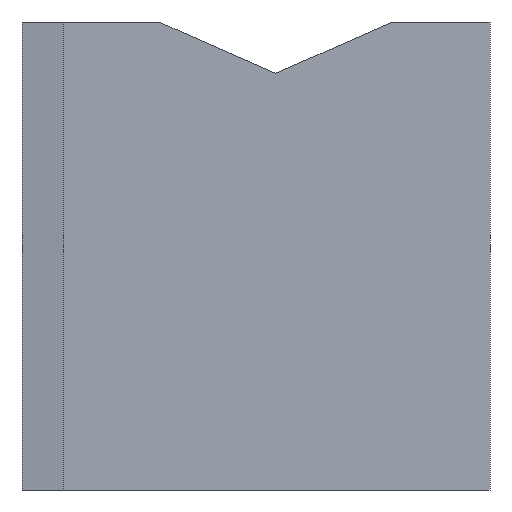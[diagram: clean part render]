
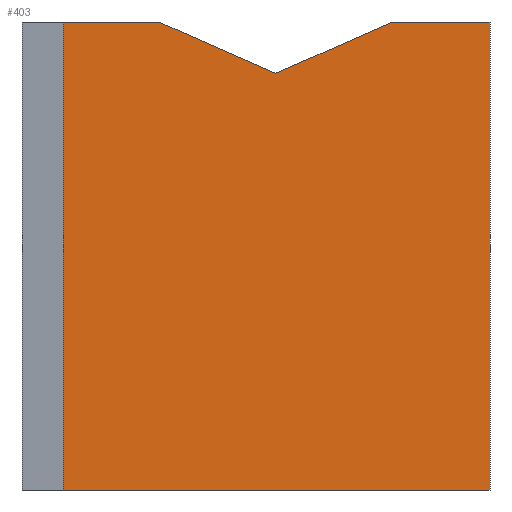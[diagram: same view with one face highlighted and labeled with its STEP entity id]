
A CAD part, front view. The second image highlights one B-rep face of the part: STEP entity #403.
In plain terms, the highlighted planar face has unit normal (0, -1, 0).
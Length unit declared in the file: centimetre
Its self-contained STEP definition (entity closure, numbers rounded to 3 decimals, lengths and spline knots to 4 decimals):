
#1 = VECTOR ( 'NONE', #371, 100. ) ;
#23 = VERTEX_POINT ( 'NONE', #562 ) ;
#34 = EDGE_CURVE ( 'NONE', #23, #563, #168, .T. ) ;
#38 = DIRECTION ( 'NONE',  ( 1., 0., 0. ) ) ;
#49 = CARTESIAN_POINT ( 'NONE',  ( 88.2409, 0., 1000. ) ) ;
#50 = EDGE_CURVE ( 'NONE', #563, #549, #198, .T. ) ;
#56 = ORIENTED_EDGE ( 'NONE', *, *, #373, .F. ) ;
#94 = ORIENTED_EDGE ( 'NONE', *, *, #383, .T. ) ;
#95 = VECTOR ( 'NONE', #38, 100. ) ;
#103 = LINE ( 'NONE', #458, #109 ) ;
#109 = VECTOR ( 'NONE', #301, 100. ) ;
#144 = CARTESIAN_POINT ( 'NONE',  ( 1000., 0., 1000. ) ) ;
#145 = DIRECTION ( 'NONE',  ( 0., 0., 1. ) ) ;
#152 = LINE ( 'NONE', #144, #375 ) ;
#158 = ORIENTED_EDGE ( 'NONE', *, *, #185, .F. ) ;
#168 = LINE ( 'NONE', #253, #285 ) ;
#179 = DIRECTION ( 'NONE',  ( 0., 0., -1. ) ) ;
#185 = EDGE_CURVE ( 'NONE', #287, #203, #152, .T. ) ;
#195 = VERTEX_POINT ( 'NONE', #49 ) ;
#198 = LINE ( 'NONE', #362, #487 ) ;
#203 = VERTEX_POINT ( 'NONE', #543 ) ;
#235 = EDGE_CURVE ( 'NONE', #23, #287, #293, .T. ) ;
#252 = CARTESIAN_POINT ( 'NONE',  ( 292.5188, 0., 1000. ) ) ;
#253 = CARTESIAN_POINT ( 'NONE',  ( 542.0898, 0., 890.1745 ) ) ;
#257 = DIRECTION ( 'NONE',  ( 0., 0., 1. ) ) ;
#280 = EDGE_CURVE ( 'NONE', #195, #549, #529, .T. ) ;
#285 = VECTOR ( 'NONE', #413, 100. ) ;
#286 = VECTOR ( 'NONE', #145, 100. ) ;
#287 = VERTEX_POINT ( 'NONE', #421 ) ;
#293 = LINE ( 'NONE', #484, #95 ) ;
#298 = ORIENTED_EDGE ( 'NONE', *, *, #235, .F. ) ;
#301 = DIRECTION ( 'NONE',  ( 1., 0., 0. ) ) ;
#305 = ORIENTED_EDGE ( 'NONE', *, *, #34, .T. ) ;
#308 = CARTESIAN_POINT ( 'NONE',  ( 0., 0., 1000. ) ) ;
#342 = AXIS2_PLACEMENT_3D ( 'NONE', #308, #547, #257 ) ;
#362 = CARTESIAN_POINT ( 'NONE',  ( 292.5188, 0., 1000. ) ) ;
#371 = DIRECTION ( 'NONE',  ( 1., 0., 0. ) ) ;
#373 = EDGE_CURVE ( 'NONE', #397, #195, #629, .T. ) ;
#375 = VECTOR ( 'NONE', #179, 100. ) ;
#383 = EDGE_CURVE ( 'NONE', #397, #203, #103, .T. ) ;
#397 = VERTEX_POINT ( 'NONE', #449 ) ;
#403 = ADVANCED_FACE ( 'NONE', ( #589 ), #597, .F. ) ;
#413 = DIRECTION ( 'NONE',  ( -0.915, 0., -0.403 ) ) ;
#421 = CARTESIAN_POINT ( 'NONE',  ( 1000., 0., 1000. ) ) ;
#422 = CARTESIAN_POINT ( 'NONE',  ( 542.0898, 0., 890.1745 ) ) ;
#449 = CARTESIAN_POINT ( 'NONE',  ( 88.2409, 0., 0. ) ) ;
#458 = CARTESIAN_POINT ( 'NONE',  ( 0., 0., 0. ) ) ;
#460 = ORIENTED_EDGE ( 'NONE', *, *, #50, .T. ) ;
#484 = CARTESIAN_POINT ( 'NONE',  ( 0., 0., 1000. ) ) ;
#487 = VECTOR ( 'NONE', #607, 100. ) ;
#496 = ORIENTED_EDGE ( 'NONE', *, *, #280, .F. ) ;
#529 = LINE ( 'NONE', #582, #1 ) ;
#543 = CARTESIAN_POINT ( 'NONE',  ( 1000., 0., 0. ) ) ;
#547 = DIRECTION ( 'NONE',  ( 0., 1., 0. ) ) ;
#549 = VERTEX_POINT ( 'NONE', #252 ) ;
#562 = CARTESIAN_POINT ( 'NONE',  ( 791.6609, 0., 1000. ) ) ;
#563 = VERTEX_POINT ( 'NONE', #422 ) ;
#571 = EDGE_LOOP ( 'NONE', ( #305, #460, #496, #56, #94, #158, #298 ) ) ;
#582 = CARTESIAN_POINT ( 'NONE',  ( 0., 0., 1000. ) ) ;
#589 = FACE_OUTER_BOUND ( 'NONE', #571, .T. ) ;
#592 = CARTESIAN_POINT ( 'NONE',  ( 88.2409, 0., 0. ) ) ;
#597 = PLANE ( 'NONE',  #342 ) ;
#607 = DIRECTION ( 'NONE',  ( -0.915, 0., 0.403 ) ) ;
#629 = LINE ( 'NONE', #592, #286 ) ;
